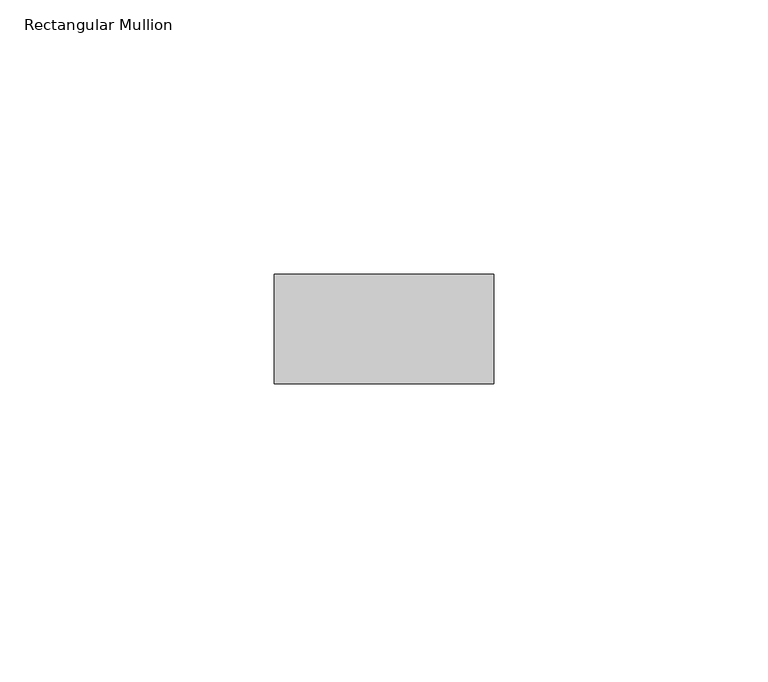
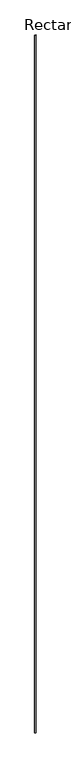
"""IFC4 building model written with IfcOpenShell, lengths in millimetres: member geometry, Rectangular Mullion : RIPA 4x2 cm."""

from ifc_helpers import new_model, si_unit, frame, origin, place, context, project, spatial, polyline, outline, extrude, source, transform, mapped, element, save


def rectangular_mullion_a5088d8e(model_context):
    return source(origin(), model_context, "Body", "SweptSolid", [
        extrude(outline(polyline([(0.0, 0.0), (0.0, -20.0), (-40.0, -20.0), (-40.0, 0.0), (0.0, 0.0)])), frame((0.0, 0.0, -24490.1659547), z_axis=(0.0, 0.0, 1.0), x_axis=(1.0, 0.0, 0.0)), (0.0, 0.0, 1.0), 24490.1659547),
    ])


if __name__ == "__main__":
    model = new_model("IFC4")
    model_context = context("Model", 3, world=origin())
    ifc_project = project(units=[si_unit("LENGTHUNIT", "METRE", prefix="MILLI")], contexts=[model_context])
    site = spatial("IfcSite", under=ifc_project)
    building = spatial("IfcBuilding", under=site)
    placement = place(None, origin())
    rectangular_mullion_shape = rectangular_mullion_a5088d8e(model_context)
    element("IfcMember", 1, ObjectType="Rectangular Mullion : RIPA 4x2 cm", at=placement, inside=building, context=model_context, shape_type="MappedRepresentation", body=[
        mapped(rectangular_mullion_shape, transform((0.0, 0.0, 0.0), x_axis=(1.0, 0.0, 0.0), y_axis=(0.0, 1.0, 0.0), z_axis=(0.0, 0.0, 1.0))),
    ])
    save(model, "model.ifc")
